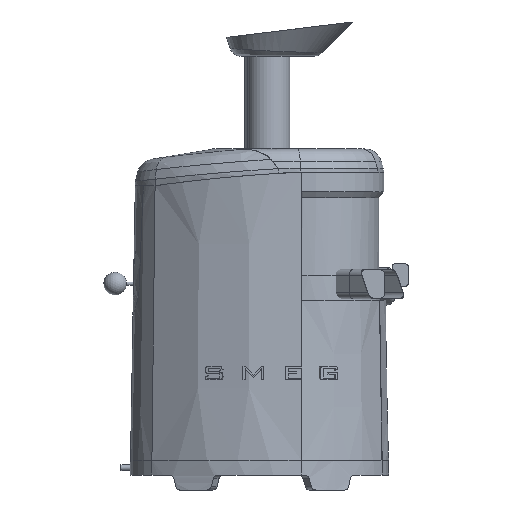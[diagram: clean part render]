
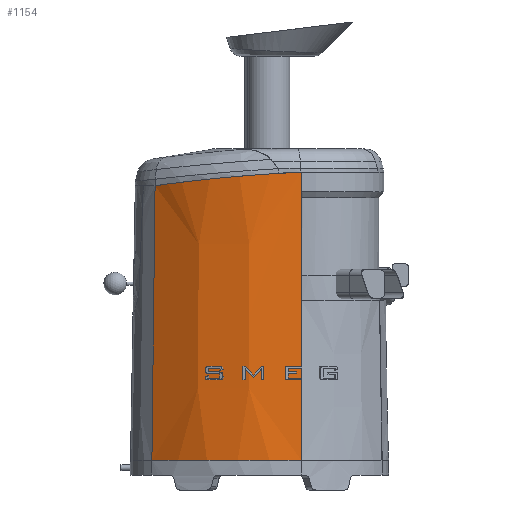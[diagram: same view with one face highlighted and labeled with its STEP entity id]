
A CAD part, front view. The second image highlights one B-rep face of the part: STEP entity #1154.
In plain terms, the highlighted conical face has half-angle 1 degrees and reference radius 163.284 mm.
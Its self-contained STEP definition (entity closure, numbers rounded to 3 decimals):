
#1154=ADVANCED_FACE('',(#1509),#1482,.T.);
#1482=CONICAL_SURFACE('',#5696,163.284,1.);
#1509=FACE_OUTER_BOUND('',#1820,.T.);
#1820=EDGE_LOOP('',(#2605,#2606,#2607,#2608));
#2165=B_SPLINE_CURVE_WITH_KNOTS('',3,(#7341,#7342,#7343,#7344,#7345,#7346,
#7347),.UNSPECIFIED.,.F.,.F.,(4,3,4),(0.,0.391,1.),
 .UNSPECIFIED.);
#2172=B_SPLINE_CURVE_WITH_KNOTS('',3,(#7409,#7410,#7411,#7412),
 .UNSPECIFIED.,.F.,.F.,(4,4),(0.,1.),.UNSPECIFIED.);
#2173=B_SPLINE_CURVE_WITH_KNOTS('',3,(#7415,#7416,#7417,#7418,#7419,#7420,
#7421,#7422,#7423,#7424,#7425,#7426),.UNSPECIFIED.,.F.,.F.,(4,2,2,2,2,4),
(0.,0.25,0.5,0.75,0.875,1.),.UNSPECIFIED.);
#2605=ORIENTED_EDGE('',*,*,#4759,.F.);
#2606=ORIENTED_EDGE('',*,*,#4760,.T.);
#2607=ORIENTED_EDGE('',*,*,#4746,.T.);
#2608=ORIENTED_EDGE('',*,*,#4761,.F.);
#4209=VERTEX_POINT('',#7340);
#4210=VERTEX_POINT('',#7348);
#4219=VERTEX_POINT('',#7413);
#4220=VERTEX_POINT('',#7414);
#4746=EDGE_CURVE('',#4210,#4209,#2165,.T.);
#4759=EDGE_CURVE('',#4219,#4220,#2172,.T.);
#4760=EDGE_CURVE('',#4219,#4210,#2173,.T.);
#4761=EDGE_CURVE('',#4220,#4209,#5556,.T.);
#5556=CIRCLE('',#5695,163.284);
#5695=AXIS2_PLACEMENT_3D('',#7427,#6150,#6151);
#5696=AXIS2_PLACEMENT_3D('',#7428,#6152,#6153);
#6150=DIRECTION('',(0.,0.,-1.));
#6151=DIRECTION('',(1.,0.,0.));
#6152=DIRECTION('',(0.,0.,-1.));
#6153=DIRECTION('',(1.,0.,0.));
#7340=CARTESIAN_POINT('',(-94.009,-37.042,9.179));
#7341=CARTESIAN_POINT('',(-91.25,-33.898,248.733));
#7342=CARTESIAN_POINT('',(-91.61,-34.308,217.483));
#7343=CARTESIAN_POINT('',(-91.97,-34.718,186.233));
#7344=CARTESIAN_POINT('',(-92.33,-35.128,154.984));
#7345=CARTESIAN_POINT('',(-92.89,-35.766,106.382));
#7346=CARTESIAN_POINT('',(-93.449,-36.404,57.78));
#7347=CARTESIAN_POINT('',(-94.009,-37.042,9.179));
#7348=CARTESIAN_POINT('',(-91.25,-33.898,248.733));
#7409=CARTESIAN_POINT('',(36.4,-68.559,260.579));
#7410=CARTESIAN_POINT('',(36.4,-70.041,176.779));
#7411=CARTESIAN_POINT('',(36.4,-71.523,92.979));
#7412=CARTESIAN_POINT('',(36.4,-73.004,9.179));
#7413=CARTESIAN_POINT('',(36.4,-68.559,260.579));
#7414=CARTESIAN_POINT('',(36.4,-73.004,9.179));
#7415=CARTESIAN_POINT('',(36.4,-68.559,260.579));
#7416=CARTESIAN_POINT('',(25.059,-70.426,260.051));
#7417=CARTESIAN_POINT('',(13.734,-71.045,259.386));
#7418=CARTESIAN_POINT('',(-8.886,-69.893,257.779));
#7419=CARTESIAN_POINT('',(-20.304,-68.073,256.824));
#7420=CARTESIAN_POINT('',(-42.168,-62.131,254.736));
#7421=CARTESIAN_POINT('',(-52.689,-58.033,253.601));
#7422=CARTESIAN_POINT('',(-67.851,-50.167,251.804));
#7423=CARTESIAN_POINT('',(-72.792,-47.257,251.19));
#7424=CARTESIAN_POINT('',(-82.281,-40.956,249.962));
#7425=CARTESIAN_POINT('',(-86.853,-37.554,249.346));
#7426=CARTESIAN_POINT('',(-91.25,-33.898,248.733));
#7427=CARTESIAN_POINT('',(10.704,88.246,9.179));
#7428=CARTESIAN_POINT('',(10.704,88.246,9.179));
